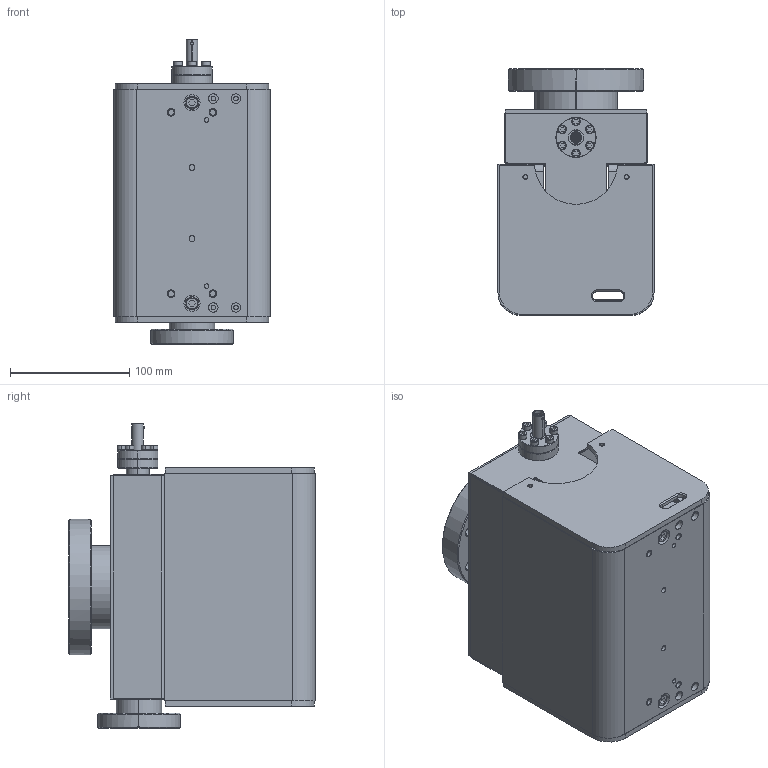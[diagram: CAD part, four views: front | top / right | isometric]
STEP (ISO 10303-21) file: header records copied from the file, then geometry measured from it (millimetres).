
FILE_DESCRIPTION((''),'2;1');
FILE_NAME('45S-XX-4D-XX','2020-12-02T12:13:02',('langebj'),('Gamma Vacuum, LLC'),'CREO PARAMETRIC BY PTC INC, 2020044','CREO PARAMETRIC BY PTC INC, 2020044','');
FILE_SCHEMA(('AUTOMOTIVE_DESIGN { 1 0 10303 214 1 1 1 1 }'));
Products named in the file (1): 45S-XX-4D-XX
Bounding box: 131.2 x 207.16 x 255.83 mm (x, y, z)
Surface area: 517706.8 mm2 (no closed solid volume)
Topology: 0 solids, 0 shells, 1041 faces, 5158 edges, 5124 vertices
Faces by surface type: cylinder 420, plane 371, cone 204, torus 44, sphere 2
Entity records: 76229 total; most frequent: CARTESIAN_POINT 18792, DIRECTION 9903, TRIMMED_CURVE 6644, VECTOR 5484, LINE 5484, DEFINITIONAL_REPRESENTATION 5092, PCURVE 5092, COMPOSITE_CURVE_SEGMENT 5092
